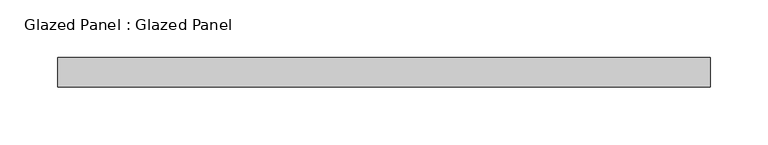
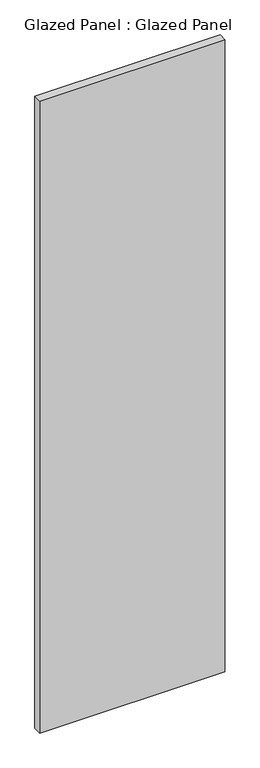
"""IFC4 building model written with IfcOpenShell, lengths in millimetres: plate geometry, Glazed Panel : Glazed Panel."""

from ifc_helpers import new_model, si_unit, origin, origin_with_axes, place, context, project, spatial, polyline, outline, extrude, source, transform, mapped, element, save


def glazed_panel_glazed_panel_0b05cef3(model_context):
    return source(origin(), model_context, "Body", "SweptSolid", [
        extrude(outline(polyline([(282.575, 38.1), (-282.575, 38.1), (-282.575, 63.5), (282.575, 63.5), (282.575, 38.1)])), origin_with_axes(), (0.0, 0.0, 1.0), 2038.35),
    ])


if __name__ == "__main__":
    model = new_model("IFC4")
    model_context = context("Model", 3, world=origin())
    ifc_project = project(units=[si_unit("LENGTHUNIT", "METRE", prefix="MILLI")], contexts=[model_context])
    site = spatial("IfcSite", under=ifc_project)
    building = spatial("IfcBuilding", under=site)
    placement = place(None, origin())
    glazed_panel_glazed_panel_shape = glazed_panel_glazed_panel_0b05cef3(model_context)
    element("IfcPlate", 1, ObjectType="Glazed Panel : Glazed Panel", at=placement, inside=building, context=model_context, shape_type="MappedRepresentation", body=[
        mapped(glazed_panel_glazed_panel_shape, transform((0.0, 0.0, 0.0), x_axis=(1.0, 0.0, 0.0), y_axis=(0.0, 1.0, 0.0), z_axis=(0.0, 0.0, 1.0))),
    ])
    save(model, "model.ifc")
